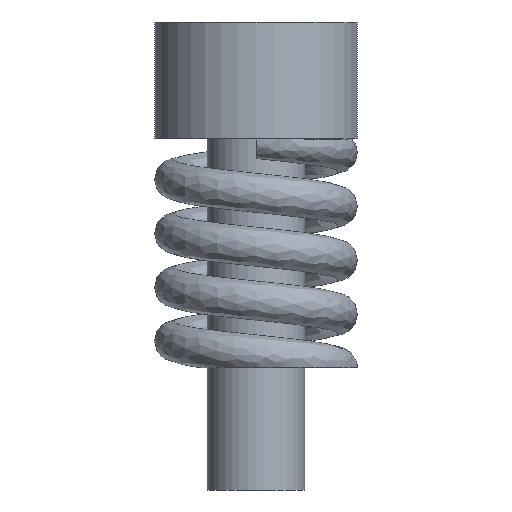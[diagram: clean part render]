
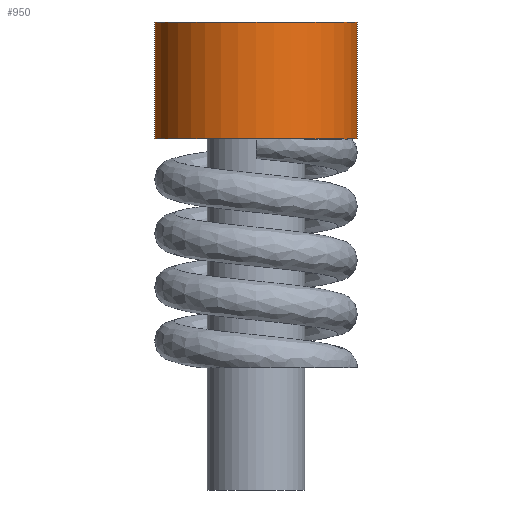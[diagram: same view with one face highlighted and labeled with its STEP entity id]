
A CAD part, front view. The second image highlights one B-rep face of the part: STEP entity #950.
In plain terms, the highlighted cylindrical face has radius 2.6 mm (diameter 5.2 mm), a partial arc.
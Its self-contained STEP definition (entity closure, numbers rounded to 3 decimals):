
#73 = VECTOR ( 'NONE', #1852, 1000. ) ;
#139 = AXIS2_PLACEMENT_3D ( 'NONE', #2480, #2422, #2712 ) ;
#152 = LINE ( 'NONE', #3356, #73 ) ;
#169 = CARTESIAN_POINT ( 'NONE',  ( 0., 0., 0. ) ) ;
#172 = CARTESIAN_POINT ( 'NONE',  ( 2.6, 0., 0. ) ) ;
#414 = CARTESIAN_POINT ( 'NONE',  ( -2.6, 0., -3. ) ) ;
#661 = DIRECTION ( 'NONE',  ( 0., 0., 1. ) ) ;
#767 = DIRECTION ( 'NONE',  ( 0., 0., 1. ) ) ;
#817 = DIRECTION ( 'NONE',  ( 1., 0., 0. ) ) ;
#950 = ADVANCED_FACE ( 'NONE', ( #1920 ), #1348, .T. ) ;
#1127 = ORIENTED_EDGE ( 'NONE', *, *, #2104, .F. ) ;
#1275 = VERTEX_POINT ( 'NONE', #1424 ) ;
#1331 = VERTEX_POINT ( 'NONE', #2975 ) ;
#1348 = CYLINDRICAL_SURFACE ( 'NONE', #1968, 2.6 ) ;
#1424 = CARTESIAN_POINT ( 'NONE',  ( 2.6, 0., -3. ) ) ;
#1542 = CIRCLE ( 'NONE', #1849, 2.6 ) ;
#1558 = EDGE_CURVE ( 'NONE', #1275, #1331, #2723, .T. ) ;
#1592 = VERTEX_POINT ( 'NONE', #414 ) ;
#1795 = CIRCLE ( 'NONE', #139, 2.6 ) ;
#1849 = AXIS2_PLACEMENT_3D ( 'NONE', #169, #3676, #817 ) ;
#1852 = DIRECTION ( 'NONE',  ( 0., 0., 1. ) ) ;
#1920 = FACE_OUTER_BOUND ( 'NONE', #2750, .T. ) ;
#1968 = AXIS2_PLACEMENT_3D ( 'NONE', #2862, #767, #3682 ) ;
#2011 = EDGE_CURVE ( 'NONE', #1592, #2255, #152, .T. ) ;
#2104 = EDGE_CURVE ( 'NONE', #2255, #1331, #1542, .T. ) ;
#2255 = VERTEX_POINT ( 'NONE', #3062 ) ;
#2296 = ORIENTED_EDGE ( 'NONE', *, *, #2011, .F. ) ;
#2422 = DIRECTION ( 'NONE',  ( 0., 0., 1. ) ) ;
#2480 = CARTESIAN_POINT ( 'NONE',  ( 0., 0., -3. ) ) ;
#2712 = DIRECTION ( 'NONE',  ( 1., 0., 0. ) ) ;
#2723 = LINE ( 'NONE', #172, #3006 ) ;
#2750 = EDGE_LOOP ( 'NONE', ( #2296, #3645, #3328, #1127 ) ) ;
#2862 = CARTESIAN_POINT ( 'NONE',  ( 0., 0., 0. ) ) ;
#2975 = CARTESIAN_POINT ( 'NONE',  ( 2.6, 0., 0. ) ) ;
#3006 = VECTOR ( 'NONE', #661, 1000. ) ;
#3062 = CARTESIAN_POINT ( 'NONE',  ( -2.6, 0., 0. ) ) ;
#3148 = EDGE_CURVE ( 'NONE', #1592, #1275, #1795, .T. ) ;
#3328 = ORIENTED_EDGE ( 'NONE', *, *, #1558, .T. ) ;
#3356 = CARTESIAN_POINT ( 'NONE',  ( -2.6, 0., 0. ) ) ;
#3645 = ORIENTED_EDGE ( 'NONE', *, *, #3148, .T. ) ;
#3676 = DIRECTION ( 'NONE',  ( 0., 0., 1. ) ) ;
#3682 = DIRECTION ( 'NONE',  ( 1., 0., 0. ) ) ;
